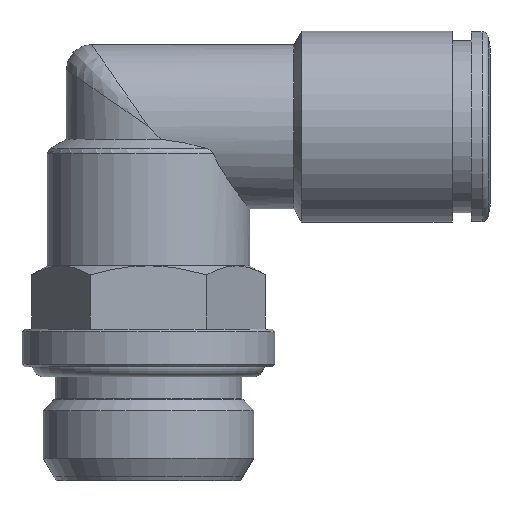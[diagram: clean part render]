
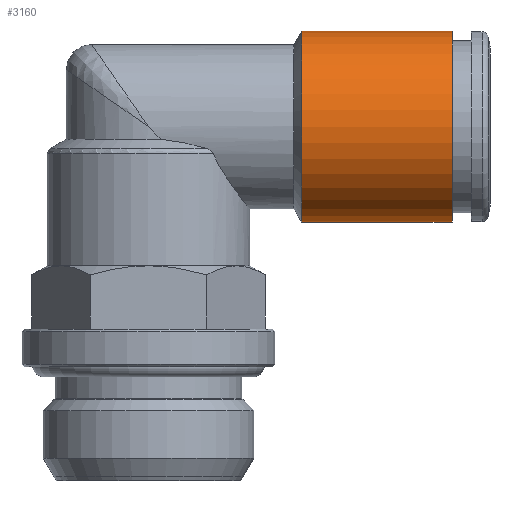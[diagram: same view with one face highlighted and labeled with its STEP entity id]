
A CAD part, front view. The second image highlights one B-rep face of the part: STEP entity #3160.
In plain terms, the highlighted cylindrical face has radius 7.55 mm (diameter 15.1 mm), a full revolution.
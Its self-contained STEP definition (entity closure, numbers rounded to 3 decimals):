
#3160=ADVANCED_FACE('', (#3170,#3180), #3190, .T.);
#8540=AXIS2_PLACEMENT_3D('Ax2Pl3d', #8550, #8560, #8570);
#9900=AXIS2_PLACEMENT_3D('Ax2Pl3d', #9910, #9920, #9930);
#9940=AXIS2_PLACEMENT_3D('Ax2Pl3d', #9950, #9960, #9970);
#8550=CARTESIAN_POINT('HicPkt', (39.247,17.943,
28.169));
#22460=CARTESIAN_POINT('', (39.247,17.943,35.719));
#9910=CARTESIAN_POINT('HicPkt', (27.353,17.943,
28.169));
#9950=CARTESIAN_POINT('HicPkt', (27.353,17.943,
28.169));
#22670=CARTESIAN_POINT('', (27.353,17.943,35.719));
#23260=CIRCLE('Circle', #8540, 7.55);
#23420=CIRCLE('Circle', #9940, 7.55);
#3190=CYLINDRICAL_SURFACE('Zyl', #9900, 7.55);
#8560=DIRECTION('Axis', (-1.,0.,0.))
;
#8570=DIRECTION('RefDirection', (0.,
0.,-1.));
#9920=DIRECTION('Axis', (1.,0.,0.));
#9930=DIRECTION('RefDirection', (0.,0.,-1.));
#9960=DIRECTION('Axis', (-1.,0.,0.)
);
#9970=DIRECTION('RefDirection', (0.,
0.,-1.));
#28450=EDGE_CURVE('', #28460, #28460, #23260, .T.);
#29000=EDGE_CURVE('', #29010, #29010, #23420, .T.);
#32610=EDGE_LOOP('Edge_loop', (#32620));
#32630=EDGE_LOOP('Edge_loop', (#32640));
#3180=FACE_BOUND('', #32630, .T.);
#3170=FACE_OUTER_BOUND('Face_outer_bound', #32610, .T.);
#32620=ORIENTED_EDGE('', *, *, #28450, .T.);
#32640=ORIENTED_EDGE('', *, *, #29000, .F.);
#28460=VERTEX_POINT('', #22460);
#29010=VERTEX_POINT('', #22670);
